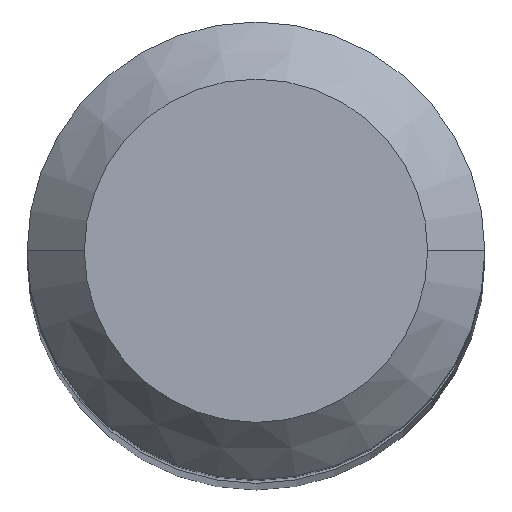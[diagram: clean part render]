
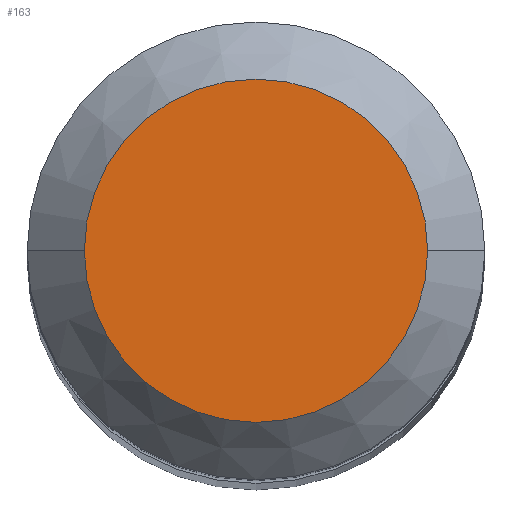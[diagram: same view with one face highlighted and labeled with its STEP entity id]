
A CAD part, top view. The second image highlights one B-rep face of the part: STEP entity #163.
In plain terms, the highlighted planar face has unit normal (0, 0, 1).
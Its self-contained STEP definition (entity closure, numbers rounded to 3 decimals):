
#18 = EDGE_CURVE ( 'NONE', #303, #354, #26, .T. ) ;
#26 = CIRCLE ( 'NONE', #265, 9. ) ;
#29 = ORIENTED_EDGE ( 'NONE', *, *, #18, .F. ) ;
#31 = DIRECTION ( 'NONE',  ( -1., 0., 0. ) ) ;
#79 = CARTESIAN_POINT ( 'NONE',  ( -9., 0., 315. ) ) ;
#94 = ORIENTED_EDGE ( 'NONE', *, *, #150, .F. ) ;
#150 = EDGE_CURVE ( 'NONE', #354, #303, #302, .T. ) ;
#163 = ADVANCED_FACE ( 'NONE', ( #373 ), #263, .T. ) ;
#167 = CARTESIAN_POINT ( 'NONE',  ( 0., 0., 315. ) ) ;
#190 = EDGE_LOOP ( 'NONE', ( #29, #94 ) ) ;
#196 = CARTESIAN_POINT ( 'NONE',  ( 0., 0., 315. ) ) ;
#226 = DIRECTION ( 'NONE',  ( 0., 0., -1. ) ) ;
#244 = CARTESIAN_POINT ( 'NONE',  ( 0., 0., 315. ) ) ;
#263 = PLANE ( 'NONE',  #337 ) ;
#265 = AXIS2_PLACEMENT_3D ( 'NONE', #244, #305, #31 ) ;
#302 = CIRCLE ( 'NONE', #375, 9. ) ;
#303 = VERTEX_POINT ( 'NONE', #79 ) ;
#305 = DIRECTION ( 'NONE',  ( 0., 0., -1. ) ) ;
#319 = CARTESIAN_POINT ( 'NONE',  ( 9., 0., 315. ) ) ;
#325 = DIRECTION ( 'NONE',  ( 1., 0., 0. ) ) ;
#337 = AXIS2_PLACEMENT_3D ( 'NONE', #196, #363, #325 ) ;
#354 = VERTEX_POINT ( 'NONE', #319 ) ;
#361 = DIRECTION ( 'NONE',  ( -1., 0., 0. ) ) ;
#363 = DIRECTION ( 'NONE',  ( 0., 0., 1. ) ) ;
#373 = FACE_OUTER_BOUND ( 'NONE', #190, .T. ) ;
#375 = AXIS2_PLACEMENT_3D ( 'NONE', #167, #226, #361 ) ;
